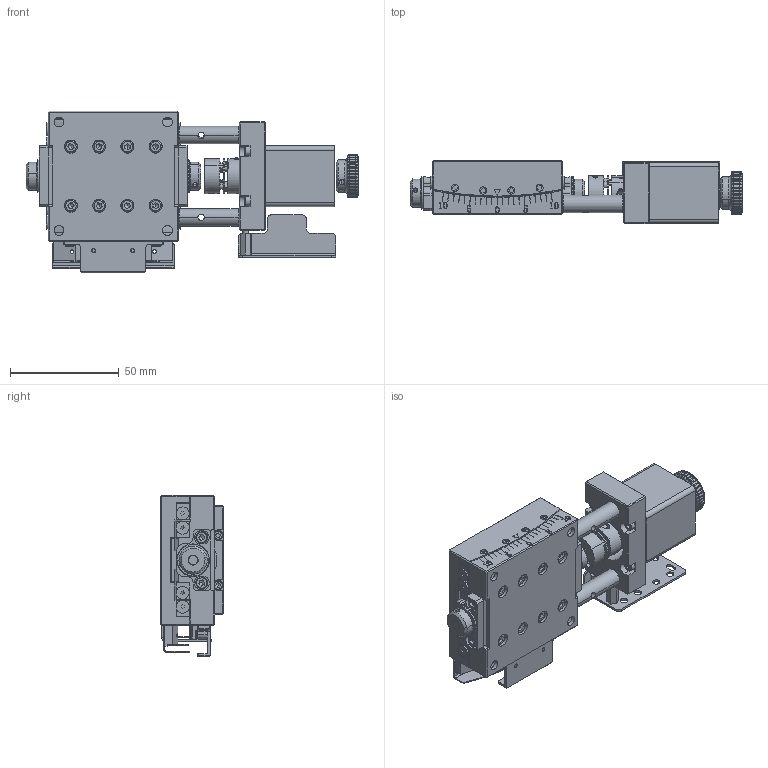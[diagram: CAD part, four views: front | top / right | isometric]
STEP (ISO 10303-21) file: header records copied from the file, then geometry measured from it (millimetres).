
FILE_DESCRIPTION (( 'STEP AP203' ), '1' );
FILE_NAME ('PT-GD06125-LC(±10°）.STEP', '2026-08-07T05:18:50', ( '' ), ( '' ), 'SwSTEP 2.0', 'SolidWorks 2025', '' );
FILE_SCHEMA (( 'CONFIG_CONTROL_DESIGN' ));
Length unit declared in the file: millimetre
Products named in the file (1): PT-GD06125-LC(±10°）
Bounding box: 152.95 x 29 x 74.6 mm (x, y, z)
Surface area: 54747.5 mm2 (no closed solid volume)
Topology: 0 solids, 108 shells, 1332 faces, 4370 edges, 3022 vertices
Faces by surface type: plane 756, cylinder 403, torus 74, cone 72, bspline 27
Entity records: 52540 total; most frequent: CARTESIAN_POINT 14994, DIRECTION 7654, ORIENTED_EDGE 7099, EDGE_CURVE 4316, VERTEX_POINT 3022, AXIS2_PLACEMENT_3D 2569, VECTOR 2516, LINE 2516
